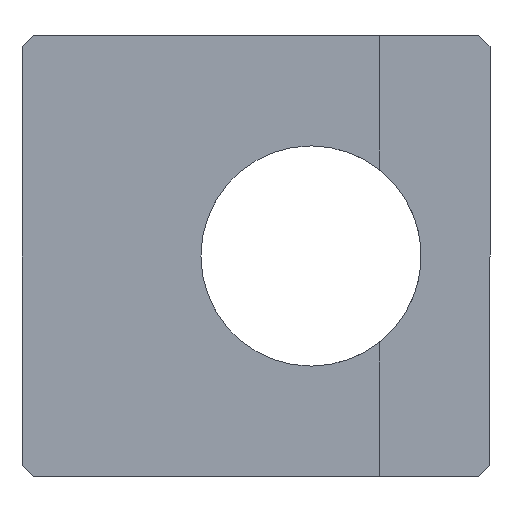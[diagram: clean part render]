
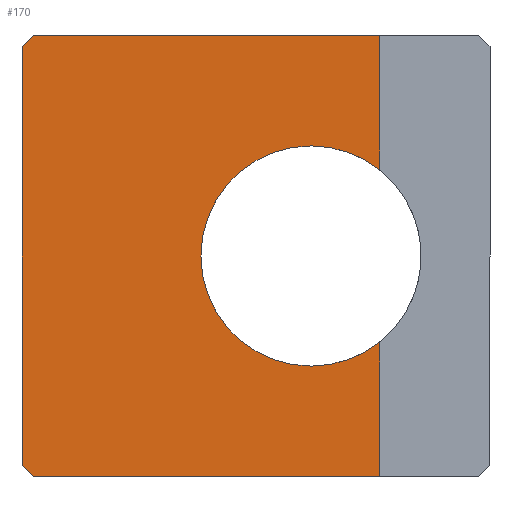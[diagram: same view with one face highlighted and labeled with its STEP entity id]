
A CAD part, front view. The second image highlights one B-rep face of the part: STEP entity #170.
In plain terms, the highlighted planar face has unit normal (0, -1, 0).
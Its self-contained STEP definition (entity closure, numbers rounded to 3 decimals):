
#2 = VERTEX_POINT ( 'NONE', #512 ) ;
#5 = AXIS2_PLACEMENT_3D ( 'NONE', #592, #253, #402 ) ;
#7 = CARTESIAN_POINT ( 'NONE',  ( 1.25, 0., -1.561 ) ) ;
#9 = CARTESIAN_POINT ( 'NONE',  ( -5.25, 0., 3.8 ) ) ;
#17 = DIRECTION ( 'NONE',  ( 0., 0., 1. ) ) ;
#21 = CARTESIAN_POINT ( 'NONE',  ( -5.05, 0., 4. ) ) ;
#22 = LINE ( 'NONE', #98, #205 ) ;
#27 = VERTEX_POINT ( 'NONE', #70 ) ;
#30 = VECTOR ( 'NONE', #121, 1000. ) ;
#31 = VECTOR ( 'NONE', #457, 1000. ) ;
#33 = EDGE_CURVE ( 'NONE', #387, #546, #517, .T. ) ;
#44 = EDGE_CURVE ( 'NONE', #624, #87, #214, .T. ) ;
#47 = VECTOR ( 'NONE', #561, 1000. ) ;
#57 = LINE ( 'NONE', #305, #478 ) ;
#70 = CARTESIAN_POINT ( 'NONE',  ( 0., 0., -2. ) ) ;
#79 = VERTEX_POINT ( 'NONE', #218 ) ;
#86 = CIRCLE ( 'NONE', #522, 2. ) ;
#87 = VERTEX_POINT ( 'NONE', #612 ) ;
#98 = CARTESIAN_POINT ( 'NONE',  ( 1.25, 0., 5. ) ) ;
#99 = EDGE_LOOP ( 'NONE', ( #257, #370, #129, #620, #358, #479, #591, #432, #617, #554 ) ) ;
#111 = DIRECTION ( 'NONE',  ( 0., 1., 0. ) ) ;
#121 = DIRECTION ( 'NONE',  ( 1., 0., 0. ) ) ;
#129 = ORIENTED_EDGE ( 'NONE', *, *, #237, .T. ) ;
#150 = DIRECTION ( 'NONE',  ( 0., 0., 1. ) ) ;
#165 = LINE ( 'NONE', #359, #47 ) ;
#170 = ADVANCED_FACE ( 'NONE', ( #375 ), #538, .T. ) ;
#205 = VECTOR ( 'NONE', #17, 1000. ) ;
#210 = CARTESIAN_POINT ( 'NONE',  ( -5.25, 0., -3.8 ) ) ;
#214 = LINE ( 'NONE', #564, #30 ) ;
#218 = CARTESIAN_POINT ( 'NONE',  ( 1.25, 0., 1.561 ) ) ;
#237 = EDGE_CURVE ( 'NONE', #546, #27, #444, .T. ) ;
#250 = CARTESIAN_POINT ( 'NONE',  ( 1.25, 0., -4. ) ) ;
#251 = VERTEX_POINT ( 'NONE', #284 ) ;
#253 = DIRECTION ( 'NONE',  ( 0., 1., 0. ) ) ;
#257 = ORIENTED_EDGE ( 'NONE', *, *, #440, .F. ) ;
#284 = CARTESIAN_POINT ( 'NONE',  ( -5.25, 0., 3.8 ) ) ;
#295 = LINE ( 'NONE', #9, #31 ) ;
#305 = CARTESIAN_POINT ( 'NONE',  ( -5.25, 0., -3.8 ) ) ;
#323 = VERTEX_POINT ( 'NONE', #510 ) ;
#325 = DIRECTION ( 'NONE',  ( 0., 0., 1. ) ) ;
#328 = CARTESIAN_POINT ( 'NONE',  ( 0., 0., 0. ) ) ;
#329 = EDGE_CURVE ( 'NONE', #27, #2, #435, .T. ) ;
#333 = AXIS2_PLACEMENT_3D ( 'NONE', #328, #627, #634 ) ;
#340 = EDGE_CURVE ( 'NONE', #79, #87, #22, .T. ) ;
#345 = EDGE_CURVE ( 'NONE', #430, #251, #450, .T. ) ;
#358 = ORIENTED_EDGE ( 'NONE', *, *, #609, .T. ) ;
#359 = CARTESIAN_POINT ( 'NONE',  ( -5.05, 0., -4. ) ) ;
#362 = EDGE_CURVE ( 'NONE', #251, #624, #295, .T. ) ;
#370 = ORIENTED_EDGE ( 'NONE', *, *, #33, .T. ) ;
#375 = FACE_OUTER_BOUND ( 'NONE', #99, .T. ) ;
#387 = VERTEX_POINT ( 'NONE', #250 ) ;
#402 = DIRECTION ( 'NONE',  ( 0., 0., 1. ) ) ;
#403 = EDGE_CURVE ( 'NONE', #323, #430, #57, .T. ) ;
#406 = CARTESIAN_POINT ( 'NONE',  ( 0., 0., 0. ) ) ;
#430 = VERTEX_POINT ( 'NONE', #610 ) ;
#432 = ORIENTED_EDGE ( 'NONE', *, *, #362, .F. ) ;
#435 = CIRCLE ( 'NONE', #5, 2. ) ;
#440 = EDGE_CURVE ( 'NONE', #387, #323, #165, .T. ) ;
#444 = CIRCLE ( 'NONE', #585, 2. ) ;
#450 = LINE ( 'NONE', #210, #570 ) ;
#457 = DIRECTION ( 'NONE',  ( 0.707, 0., 0.707 ) ) ;
#472 = CARTESIAN_POINT ( 'NONE',  ( 1.25, 0., 5. ) ) ;
#478 = VECTOR ( 'NONE', #606, 1000. ) ;
#479 = ORIENTED_EDGE ( 'NONE', *, *, #340, .T. ) ;
#510 = CARTESIAN_POINT ( 'NONE',  ( -5.05, 0., -4. ) ) ;
#512 = CARTESIAN_POINT ( 'NONE',  ( 0., 0., 2. ) ) ;
#517 = LINE ( 'NONE', #472, #521 ) ;
#521 = VECTOR ( 'NONE', #325, 1000. ) ;
#522 = AXIS2_PLACEMENT_3D ( 'NONE', #406, #111, #150 ) ;
#535 = DIRECTION ( 'NONE',  ( 0., 0., 1. ) ) ;
#538 = PLANE ( 'NONE',  #333 ) ;
#543 = CARTESIAN_POINT ( 'NONE',  ( 0., 0., 0. ) ) ;
#545 = DIRECTION ( 'NONE',  ( 0., 0., 1. ) ) ;
#546 = VERTEX_POINT ( 'NONE', #7 ) ;
#554 = ORIENTED_EDGE ( 'NONE', *, *, #403, .F. ) ;
#561 = DIRECTION ( 'NONE',  ( -1., 0., 0. ) ) ;
#564 = CARTESIAN_POINT ( 'NONE',  ( -5.05, 0., 4. ) ) ;
#570 = VECTOR ( 'NONE', #545, 1000. ) ;
#585 = AXIS2_PLACEMENT_3D ( 'NONE', #543, #589, #535 ) ;
#589 = DIRECTION ( 'NONE',  ( 0., 1., 0. ) ) ;
#591 = ORIENTED_EDGE ( 'NONE', *, *, #44, .F. ) ;
#592 = CARTESIAN_POINT ( 'NONE',  ( 0., 0., 0. ) ) ;
#606 = DIRECTION ( 'NONE',  ( -0.707, 0., 0.707 ) ) ;
#609 = EDGE_CURVE ( 'NONE', #2, #79, #86, .T. ) ;
#610 = CARTESIAN_POINT ( 'NONE',  ( -5.25, 0., -3.8 ) ) ;
#612 = CARTESIAN_POINT ( 'NONE',  ( 1.25, 0., 4. ) ) ;
#617 = ORIENTED_EDGE ( 'NONE', *, *, #345, .F. ) ;
#620 = ORIENTED_EDGE ( 'NONE', *, *, #329, .T. ) ;
#624 = VERTEX_POINT ( 'NONE', #21 ) ;
#627 = DIRECTION ( 'NONE',  ( 0., -1., 0. ) ) ;
#634 = DIRECTION ( 'NONE',  ( 0., 0., -1. ) ) ;
